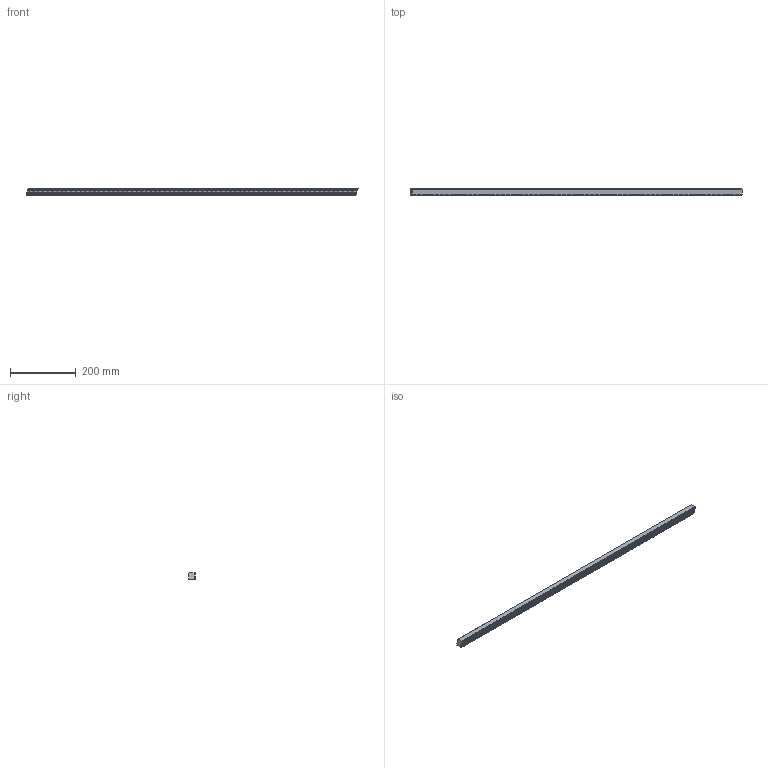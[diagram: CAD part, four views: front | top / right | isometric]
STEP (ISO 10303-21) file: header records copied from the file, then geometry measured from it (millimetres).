
FILE_DESCRIPTION(/* description */ (''),/* implementation_level */ '2;1');
FILE_NAME(/* name */ 'BL-1HR26R015100.ipt',/* time_stamp */ '2019-06-18T08:35:35+02:00',/* author */ ('VĂ©gh MĂˇtĂ©'),/* organization */ ('Bearing Kft'),/* preprocessor_version */ 'ST-DEVELOPER v16.7',/* originating_system */ 'DEX',/* authorisation */ $);
FILE_SCHEMA (('AUTOMOTIVE_DESIGN {1 0 10303 214 3 1 1}'));
Length unit declared in the file: millimetre
Products named in the file (1): BL-1HR26R015100.ipt
Bounding box: 1007.1 x 20 x 20 mm (x, y, z)
Volume: 365887 mm3; surface area: 96358.1 mm2
Topology: 1 solids, 1 shells, 1535 faces, 4440 edges, 2960 vertices
Faces by surface type: plane 1056, bspline 477, cylinder 2
Entity records: 55850 total; most frequent: CARTESIAN_POINT 16321, ORIENTED_EDGE 8868, DIRECTION 7202, EDGE_CURVE 4434, LINE 3476, VECTOR 3476, VERTEX_POINT 2960, AXIS2_PLACEMENT_3D 1863
